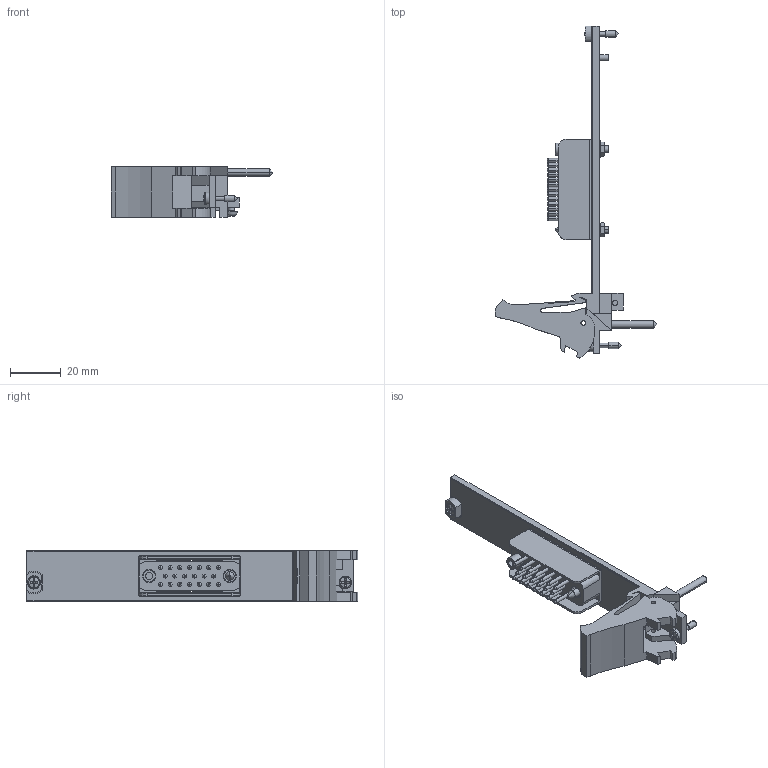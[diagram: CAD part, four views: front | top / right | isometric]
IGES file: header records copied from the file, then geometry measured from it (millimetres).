
Start section:  PTC IGES file: cu_pxi-2586.igs
Global section: file name: cu_pxi-2586.igs; native system: Pro/ENGINEER by Parametric Technology Corporation; preprocessor: 2006080; author: jjorden; organization: Unknown; date: 091106.162752; units: inch
Bounding box: 63.53 x 130.5 x 20.02 mm (x, y, z)
Surface area: 18736.3 mm2 (no closed solid volume)
Topology: 0 solids, 0 shells, 700 faces, 3510 edges, 3502 vertices
Faces by surface type: bspline 411, revolution 289
